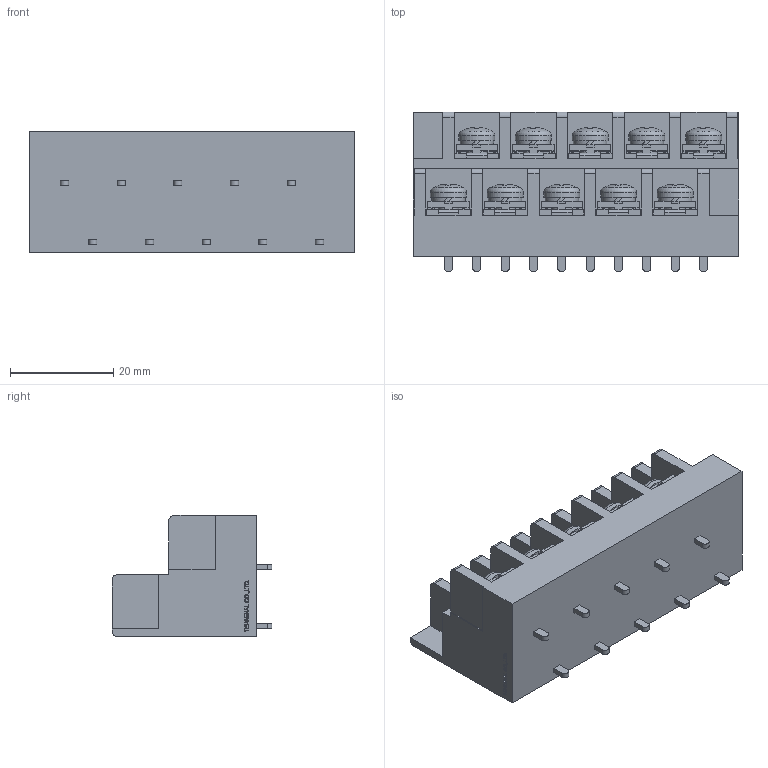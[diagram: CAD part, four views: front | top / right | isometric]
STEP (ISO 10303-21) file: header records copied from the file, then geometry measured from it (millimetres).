
FILE_DESCRIPTION(/* description */ ('Alibre Inc.'),/* implementation_level */ '2;1');
FILE_NAME(/* name */ 'export0',/* time_stamp */ '2016-08-05T11:44:12+09:00',/* author */ (''),/* organization */ (''),/* preprocessor_version */ 'ST-DEVELOPER v14',/* originating_system */ 'Alibre',/* authorisation */ '');
FILE_SCHEMA (('CONFIG_CONTROL_DESIGN'));
Length unit declared in the file: centimetre
Products named in the file (1): ID_1
Bounding box: 63.1 x 31 x 23.5 mm (x, y, z)
Volume: 26552 mm3; surface area: 12550.2 mm2
Topology: 1 solids, 97 shells, 2261 faces, 5906 edges, 3894 vertices
Faces by surface type: plane 1744, bspline 364, cylinder 83, cone 40, torus 20, sphere 10
Full cylindrical faces by diameter (mm): 4 x10, 7 x10
Entity records: 66003 total; most frequent: CARTESIAN_POINT 15308, ORIENTED_EDGE 11792, DIRECTION 7286, EDGE_CURVE 5856, VECTOR 4427, LINE 4427, VERTEX_POINT 3884, EDGE_LOOP 2444
